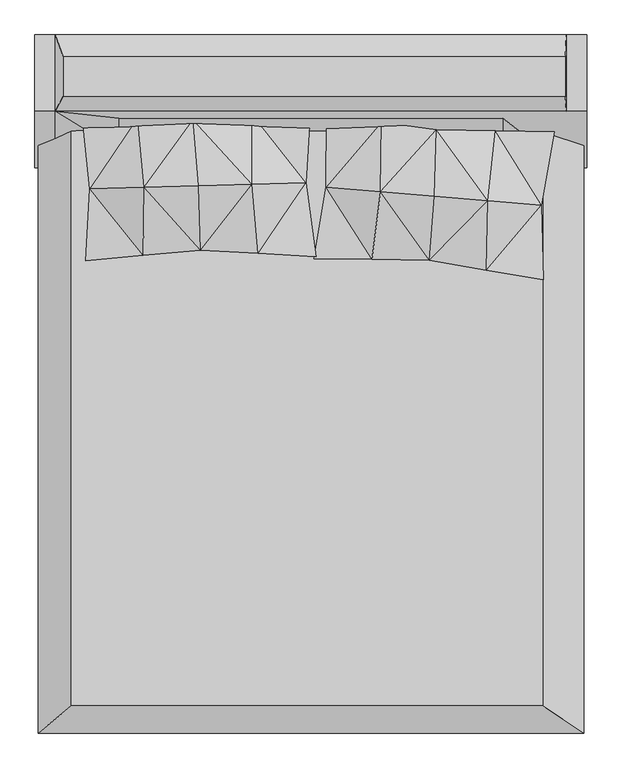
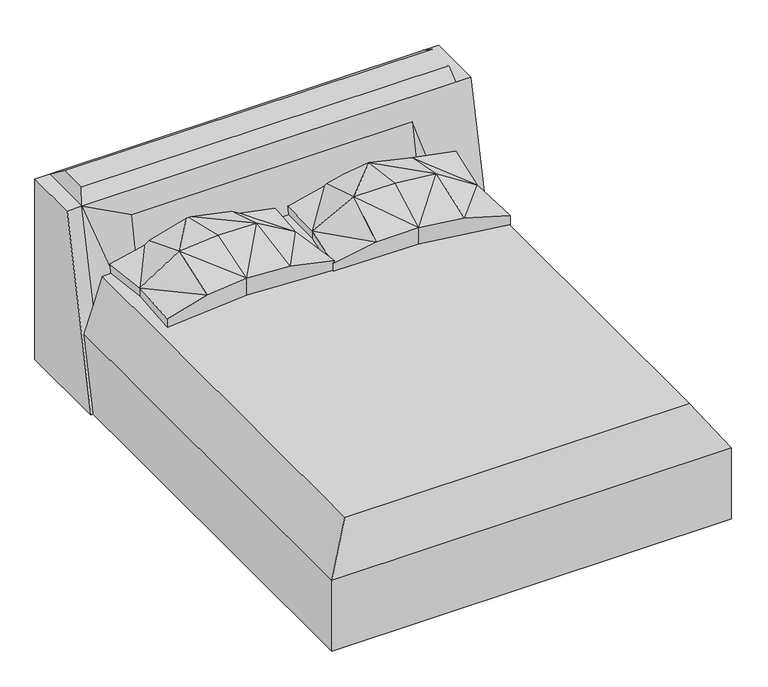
"""IFC4 building model written with IfcOpenShell, lengths in millimetres: geographic element geometry, Enscape AssetDefinition - Bed 008 197 x 249 cm (77 x 98 in) : Enscape AssetDefinition - Bed 008 197 x 249 cm (77 x 98 in)."""

import ifcopenshell
import ifcopenshell.guid

model = None  # the IFC model being written
_history = None  # IfcOwnerHistory: only IFC2X3 demands one
_inside = {}  # id of a spatial element -> (the spatial element, [elements in it])
_under = {}  # id of a project, library or spatial element -> (it, [spatial elements below it])
_declared = {}  # id of a project -> (the project, [libraries it declares])
_typed = {}  # id of a type object -> (the type object, [elements of that type])
_made_of = {}  # id of a material, layer set ... -> (it, [elements and type objects made of it])


def new_model(schema):
    """Start an empty IFC model of exactly this schema.

    Asked for "IFC4X3", IfcOpenShell would pick the latest addendum, in which some entities
    have other attributes; the version numbers below select the first issue.
    IFC2X3 requires an IfcOwnerHistory on every rooted entity: one is made here for all.
    """
    global model, _history
    if schema == "IFC4X3":
        model = ifcopenshell.file(schema_version=(4, 3, 0, 0))
    else:
        model = ifcopenshell.file(schema=schema)
    _inside.clear()
    _under.clear()
    _declared.clear()
    _typed.clear()
    _made_of.clear()
    _history = None
    if model.schema == "IFC2X3":
        org = make("IfcOrganization", Name="unknown")
        user = make(
            "IfcPersonAndOrganization",
            ThePerson=make("IfcPerson", FamilyName="unknown"),
            TheOrganization=org,
        )
        app = make(
            "IfcApplication",
            ApplicationDeveloper=org,
            Version="unknown",
            ApplicationFullName="unknown",
            ApplicationIdentifier="unknown",
        )
        _history = make(
            "IfcOwnerHistory",
            OwningUser=user,
            OwningApplication=app,
            ChangeAction="ADDED",
            CreationDate=0,
        )
    return model


def make(cls, **values):
    """One entity of the class cls with the attributes given. An attribute that is None is left unset."""
    return model.create_entity(
        cls, **{name: value for name, value in values.items() if value is not None}
    )


def rooted(cls, **values):
    """An entity with a GlobalId (a new one), such as an element, a storey or a relation."""
    return make(cls, GlobalId=ifcopenshell.guid.new(), OwnerHistory=_history, **values)


def si_unit(unit_type, name, prefix=None):
    """IfcSIUnit, for example si_unit("LENGTHUNIT", "METRE", prefix="MILLI")."""
    return make("IfcSIUnit", UnitType=unit_type, Prefix=prefix, Name=name)


def assignment(units):
    """IfcUnitAssignment: the units of a project."""
    return None if units is None else make("IfcUnitAssignment", Units=units)


def point(xyz):
    """IfcCartesianPoint."""
    return None if xyz is None else make("IfcCartesianPoint", Coordinates=xyz)


def direction(xyz):
    """IfcDirection."""
    return None if xyz is None else make("IfcDirection", DirectionRatios=xyz)


def frame(location, z_axis=None, x_axis=None):
    """IfcAxis2Placement3D, a coordinate frame: its origin and axes. An axis left out is left unset."""
    return make(
        "IfcAxis2Placement3D",
        Location=point(location),
        Axis=direction(z_axis),
        RefDirection=direction(x_axis),
    )


def origin():
    """The frame at (0, 0, 0) with its axes left unset."""
    return frame((0.0, 0.0, 0.0))


def place(relative_to, where):
    """IfcLocalPlacement: puts the frame where relative to a parent placement (None: the world)."""
    return make(
        "IfcLocalPlacement", PlacementRelTo=relative_to, RelativePlacement=where
    )


def context(
    kind, dimensions, precision=None, world=None, true_north=None, identifier=None
):
    """IfcGeometricRepresentationContext, for example the 3D "Model" context."""
    return make(
        "IfcGeometricRepresentationContext",
        ContextIdentifier=identifier,
        ContextType=kind,
        CoordinateSpaceDimension=dimensions,
        Precision=precision,
        WorldCoordinateSystem=world,
        TrueNorth=true_north,
    )


def project(units=None, contexts=None):
    """IfcProject with its units and contexts."""
    return rooted(
        "IfcProject",
        Name="project",
        RepresentationContexts=contexts,
        UnitsInContext=assignment(units),
    )


def spatial(cls, under=None, at=None, **own):
    """A site, building, storey or space (cls), placed at a placement, below another one or the project."""
    s = rooted(cls, ObjectPlacement=at, **own)
    if under is not None:
        _under.setdefault(under.id(), (under, []))[1].append(s)
    return s


def point_list(points):
    """IfcCartesianPointList2D or 3D."""
    cls = (
        "IfcCartesianPointList2D" if len(points[0]) == 2 else "IfcCartesianPointList3D"
    )
    return make(cls, CoordList=points)


def triangles(points, corners, closed=None, point_numbers=None):
    """IfcTriangulatedFaceSet: each triangle names its three corners, points numbered from 1."""
    return make(
        "IfcTriangulatedFaceSet",
        Coordinates=point_list(points),
        Closed=closed,
        CoordIndex=corners,
        PnIndex=point_numbers,
    )


def shape(context_of_items, identifier, shape_type, items):
    """IfcShapeRepresentation: the items that make up one representation, for example the "Body"."""
    return make(
        "IfcShapeRepresentation",
        ContextOfItems=context_of_items,
        RepresentationIdentifier=identifier,
        RepresentationType=shape_type,
        Items=items,
    )


def source(mapping_origin, context_of_items, identifier, shape_type, items):
    """IfcRepresentationMap: a shape defined once, which mapped items show again and again."""
    return make(
        "IfcRepresentationMap",
        MappingOrigin=mapping_origin,
        MappedRepresentation=shape(context_of_items, identifier, shape_type, items),
    )


def transform(
    local_origin,
    x_axis=None,
    y_axis=None,
    z_axis=None,
    scale=None,
    scale2=None,
    scale3=None,
    uniform=True,
):
    """IfcCartesianTransformationOperator3D, or its non-uniform kind. x_axis, y_axis, z_axis: its Axis1, 2, 3."""
    if uniform:
        return make(
            "IfcCartesianTransformationOperator3D",
            Axis1=direction(x_axis),
            Axis2=direction(y_axis),
            LocalOrigin=point(local_origin),
            Scale=scale,
            Axis3=direction(z_axis),
        )
    return make(
        "IfcCartesianTransformationOperator3DnonUniform",
        Axis1=direction(x_axis),
        Axis2=direction(y_axis),
        LocalOrigin=point(local_origin),
        Scale=scale,
        Axis3=direction(z_axis),
        Scale2=scale2,
        Scale3=scale3,
    )


def mapped(mapping_source, mapping_target):
    """IfcMappedItem: shows the shape of a source again, moved by a transform."""
    return make(
        "IfcMappedItem", MappingSource=mapping_source, MappingTarget=mapping_target
    )


def made_of(thing, what):
    """Note that an element or type object is made of a material, layer set ...; save() writes the relation."""
    if what is not None:
        _made_of.setdefault(what.id(), (what, []))[1].append(thing)
    return thing


def element(
    cls,
    number,
    at=None,
    inside=None,
    cuts=None,
    type_object=None,
    material=None,
    context=None,
    identifier="Body",
    shape_type=None,
    held_by="IfcProductDefinitionShape",
    body=None,
    shapes=None,
    **own,
):
    """One element of the class cls, such as IfcWall. Its Tag is "e" and its number.

    at: its placement. inside: the storey or other place that contains it. cuts: it is an
    opening in that element (IfcRelVoidsElement). A single representation is given by context,
    identifier, shape_type and body (its items); several are given by shapes. held_by: the class
    of the entity that holds the representations. save() writes the other relations.
    """
    e = rooted(cls, Tag="e%d" % number, ObjectPlacement=at, **own)
    if body is not None:
        shapes = [shape(context, identifier, shape_type, body)]
    if shapes is not None:
        e.Representation = make(held_by, Representations=shapes)
    if inside is not None:
        _inside.setdefault(inside.id(), (inside, []))[1].append(e)
    if cuts is not None:
        rooted(
            "IfcRelVoidsElement", RelatingBuildingElement=cuts, RelatedOpeningElement=e
        )
    if type_object is not None:
        _typed.setdefault(type_object.id(), (type_object, []))[1].append(e)
    return made_of(e, material)


def aggregate(whole, parts):
    """IfcRelAggregates: a whole, such as a stair, and the parts it consists of."""
    return rooted("IfcRelAggregates", RelatingObject=whole, RelatedObjects=parts)


def save(model, path):
    """Write the relations noted so far, then the file.

    IfcRelAggregates (storeys below a building ...), IfcRelContainedInSpatialStructure (elements
    in a storey), IfcRelDefinesByType, IfcRelAssociatesMaterial and IfcRelDeclares: one each for
    every whole, place, type object, material and project.
    """
    for whole, parts in _under.values():
        aggregate(whole, parts)
    for where, things in _inside.values():
        rooted(
            "IfcRelContainedInSpatialStructure",
            RelatedElements=things,
            RelatingStructure=where,
        )
    for kind, things in _typed.values():
        rooted("IfcRelDefinesByType", RelatedObjects=things, RelatingType=kind)
    for what, things in _made_of.values():
        rooted("IfcRelAssociatesMaterial", RelatedObjects=things, RelatingMaterial=what)
    for by, libraries in _declared.values():
        rooted("IfcRelDeclares", RelatingContext=by, RelatedDefinitions=libraries)
    model.write(path)


def geographic_element_208f0b4b(model_context):
    return source(origin(), model_context, "Body", "Tessellation", [
        triangles([(9.1490606, 363.3992575, 628.8859594), (9.1490606, 363.3992575, 575.9326873), (52.5256638, 617.6541595, 628.6069794), (53.4397523, 876.5854477, 628.8859594), (53.4397523, 876.5854477, 575.9326873), (52.5256638, 617.6541595, 575.9326873), (421.7178998, 356.7858167, 575.9326873), (215.4334708, 360.0920465, 575.9326873), (215.4334708, 360.0920465, 668.7211733), (245.8346675, 601.6443446, 748.4548239), (249.9592704, 849.1066744, 668.7211733), (249.9592704, 849.1066744, 575.9326873), (446.477762, 821.6268837, 575.9326873), (439.142672, 585.6345297, 759.7435244), (624.5647842, 322.2611072, 672.1474176), (421.7178998, 356.7858167, 675.0149752), (629.9312445, 569.9015147, 751.8811409), (446.477762, 821.6268837, 719.978437), (656.5233713, 818.2209143, 672.1474176), (624.5647842, 322.2611072, 575.9326873), (820.7189449, 554.1685361, 635.458596), (866.5701433, 814.8150175, 635.7385208), (656.5233713, 818.2209143, 575.9326873), (866.5701433, 814.8150175, 575.9326873), (827.411705, 287.737306, 575.9326873), (820.7189449, 554.1685361, 575.9326873), (827.411705, 287.737306, 635.7385208), (-600.1968312, 374.5913069, 579.6858012), (-805.6038792, 355.3006966, 632.638928), (-805.6038792, 355.3006966, 579.6858012), (-790.3146961, 612.7762596, 632.3600206), (-817.7455799, 870.2518953, 579.6858012), (-817.7455799, 870.2518953, 632.638928), (-790.3146961, 612.7762596, 579.6858012), (-619.3999105, 864.4467264, 579.6858012), (-600.1968312, 374.5913069, 672.4742146), (-619.3999105, 864.4467264, 672.4742146), (-421.0542048, 858.6414848, 579.6858012), (-402.5158742, 623.2629015, 763.4965656), (-596.415267, 618.0196169, 752.2077925), (-394.7888386, 393.8818809, 678.7679438), (-394.7888386, 393.8818809, 579.6858012), (-421.0542048, 858.6414848, 723.731551), (-211.8972404, 878.2446487, 579.6858012), (-211.8972404, 878.2446487, 675.9005316), (-211.1521006, 628.5062588, 755.6331648), (-189.3818633, 381.766632, 675.9005316), (16.0251051, 369.6513468, 639.4916348), (-19.7883543, 633.7494707, 639.2116373), (-2.7402391, 897.8476673, 579.6858012), (-2.7402391, 897.8476673, 639.4906174), (-189.3818633, 381.766632, 579.6858012), (-19.7883543, 633.7494707, 579.6858012), (16.0251051, 369.6513468, 579.6858012), (909.5364887, 1160.406859, 0.0010179), (-913.7251865, 1160.406859, 0.0010179), (-986.2050648, 1160.406859, 0.0010179), (-986.2050648, 686.947023, 0.0010179), (-986.2050648, 888.3066799, 930.921884), (-986.2050648, 1160.4078037, 930.921884), (-913.7251865, 1160.4078037, 930.921884), (-913.7251865, 888.3066799, 930.921884), (909.5364887, 1160.4078037, 930.921884), (905.3782396, 941.8401129, 985.2177704), (909.5364887, 888.3066799, 930.921884), (-686.4431293, 862.982935, 821.7744764), (-913.7251865, 686.947023, 0.0010179), (-686.4431293, 748.9230366, 224.1458569), (-885.9461409, 941.8401129, 985.2177704), (-885.9461409, 1082.6347166, 985.2177704), (905.3782396, 1082.6347166, 985.2177704), (982.0153496, 888.3066799, 930.921884), (982.0153496, 686.947023, 0.0010179), (982.0153496, 1160.4078037, 930.921884), (982.0153496, 1160.406859, 0.0010179), (909.5364887, 686.947023, 0.0010179), (682.2543589, 748.9230366, 224.1458569), (682.2543589, 862.982935, 821.7744764), (-975.107777, 919.14862, 0.0), (972.2769178, 919.14862, 0.0), (-975.107777, -1327.6622749, 0.0), (972.2769178, -1327.6622749, 0.0), (-975.107777, 919.1476027, 366.0265317), (-855.9918646, -1230.6727009, 589.5066407), (-975.107777, -1327.6622749, 366.0265317), (972.2769178, -1327.6622749, 366.0265317), (-855.9918646, 919.1476027, 589.5066407), (972.2769178, 919.1476027, 366.0265317), (824.5819359, -1230.6727009, 589.5066407), (824.5819359, 919.1476027, 589.5066407)], [[90, 89, 86], [90, 84, 89], [90, 87, 84], [87, 90, 88], [88, 90, 86], [88, 86, 82], [89, 84, 85], [82, 86, 85], [86, 89, 85], [81, 82, 85], [83, 85, 84], [83, 87, 88], [87, 83, 84], [83, 88, 80], [80, 88, 82], [79, 81, 85], [79, 80, 82], [83, 79, 85], [79, 82, 81], [79, 83, 80], [67, 77, 68], [68, 77, 78], [65, 66, 78], [66, 68, 78], [76, 65, 78], [67, 76, 77], [76, 78, 77], [76, 73, 65], [75, 73, 76], [55, 76, 67], [55, 75, 76], [74, 75, 55], [73, 75, 74], [73, 72, 65], [73, 74, 72], [72, 74, 63], [63, 74, 55], [65, 72, 63], [65, 63, 71], [65, 71, 64], [64, 71, 70], [63, 70, 71], [69, 64, 70], [62, 67, 68], [65, 62, 66], [62, 65, 64], [62, 68, 66], [62, 64, 69], [62, 59, 67], [60, 59, 62], [61, 62, 69], [63, 61, 70], [61, 69, 70], [61, 60, 62], [57, 60, 61], [57, 59, 60], [59, 58, 67], [57, 58, 59], [58, 57, 56], [56, 61, 63], [56, 57, 61], [67, 58, 56], [55, 56, 63], [56, 55, 67], [54, 53, 48], [52, 54, 48], [53, 54, 52], [52, 42, 44], [53, 52, 44], [44, 50, 53], [50, 44, 51], [50, 51, 49], [53, 49, 48], [53, 50, 49], [47, 48, 49], [42, 52, 47], [52, 48, 47], [47, 49, 46], [49, 51, 45], [44, 45, 51], [49, 45, 46], [42, 38, 44], [44, 38, 45], [38, 43, 45], [45, 43, 46], [43, 39, 46], [41, 47, 46], [42, 47, 41], [41, 46, 39], [42, 41, 36], [41, 39, 40], [36, 41, 40], [39, 43, 40], [43, 37, 40], [38, 37, 43], [35, 38, 42], [38, 35, 37], [35, 32, 33], [35, 33, 37], [37, 33, 31], [36, 40, 31], [37, 31, 40], [29, 36, 31], [28, 36, 29], [28, 42, 36], [35, 42, 28], [34, 31, 33], [34, 35, 28], [34, 32, 35], [32, 34, 33], [30, 29, 31], [34, 30, 31], [30, 28, 29], [30, 34, 28], [25, 26, 27], [20, 25, 27], [26, 25, 20], [20, 7, 23], [26, 20, 23], [23, 24, 26], [24, 23, 22], [24, 22, 21], [26, 21, 27], [26, 24, 21], [15, 27, 21], [7, 20, 15], [20, 27, 15], [15, 21, 17], [21, 22, 19], [23, 19, 22], [21, 19, 17], [7, 13, 23], [23, 13, 19], [13, 18, 19], [19, 18, 17], [18, 14, 17], [16, 15, 17], [7, 15, 16], [16, 17, 14], [7, 16, 9], [16, 14, 10], [9, 16, 10], [14, 18, 10], [18, 11, 10], [13, 11, 18], [12, 13, 7], [13, 12, 11], [12, 5, 4], [12, 4, 11], [11, 4, 3], [9, 10, 3], [11, 3, 10], [1, 9, 3], [8, 9, 1], [8, 7, 9], [12, 7, 8], [6, 3, 4], [6, 12, 8], [6, 5, 12], [5, 6, 4], [2, 1, 3], [6, 2, 3], [2, 8, 1], [2, 6, 8]]),
    ])


if __name__ == "__main__":
    model = new_model("IFC4")
    model_context = context("Model", 3, world=origin())
    ifc_project = project(units=[si_unit("LENGTHUNIT", "METRE", prefix="MILLI")], contexts=[model_context])
    site = spatial("IfcSite", under=ifc_project)
    building = spatial("IfcBuilding", under=site)
    placement = place(None, origin())
    geographic_element_shape = geographic_element_208f0b4b(model_context)
    element("IfcGeographicElement", 1, ObjectType="Enscape AssetDefinition - Bed 008 197 x 249 cm (77 x 98 in) : Enscape AssetDefinition - Bed 008 197 x 249 cm (77 x 98 in)", at=placement, inside=building, context=model_context, shape_type="MappedRepresentation", body=[
        mapped(geographic_element_shape, transform((0.0, 0.0, 0.0), x_axis=(1.0, 0.0, 0.0), y_axis=(0.0, 1.0, 0.0), z_axis=(0.0, 0.0, 1.0))),
    ])
    save(model, "model.ifc")
